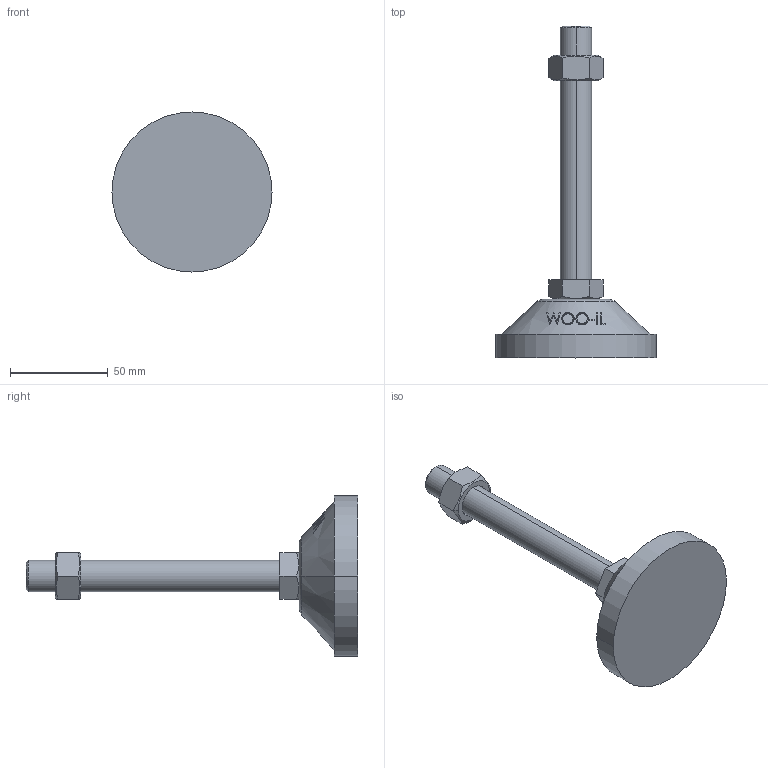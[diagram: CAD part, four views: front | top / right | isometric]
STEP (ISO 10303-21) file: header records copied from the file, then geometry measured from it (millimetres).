
FILE_DESCRIPTION (( 'STEP AP214' ), '1' );
FILE_NAME ('RL82-M16-130.step', '2021-01-06T08:17:39', ( '' ), ( '' ), 'SwSTEP 2.0', 'SolidWorks 2019', '' );
FILE_SCHEMA (( 'AUTOMOTIVE_DESIGN' ));
Length unit declared in the file: millimetre
Products named in the file (1): RL82-M16-130
Bounding box: 82 x 170 x 82 mm (x, y, z)
Volume: 145729.3 mm3; surface area: 25407.7 mm2
Topology: 3 solids, 3 shells, 93 faces, 217 edges, 140 vertices
Faces by surface type: plane 47, cone 22, bspline 16, cylinder 6, torus 2
Entity records: 4223 total; most frequent: CARTESIAN_POINT 2191, ORIENTED_EDGE 434, DIRECTION 349, EDGE_CURVE 217, VERTEX_POINT 140, AXIS2_PLACEMENT_3D 134, EDGE_LOOP 105, ADVANCED_FACE 93
